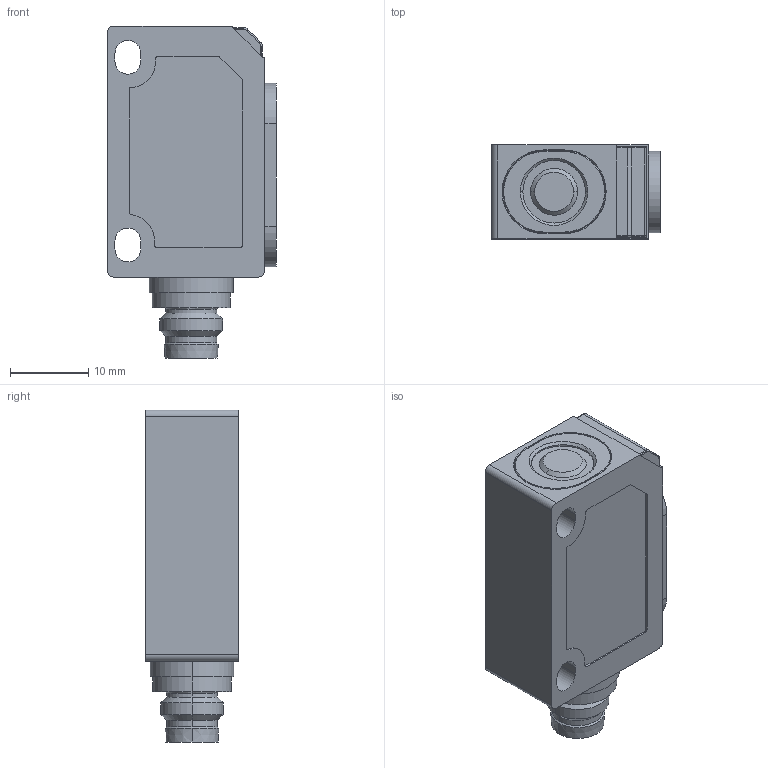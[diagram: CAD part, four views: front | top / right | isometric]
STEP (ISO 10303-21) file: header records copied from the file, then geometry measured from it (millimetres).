
FILE_DESCRIPTION (( 'STEP AP214' ), '1' );
FILE_NAME ('zws-15_CX_QS.STEP', '2025-04-25T10:16:48', ( '' ), ( '' ), 'SwSTEP 2.0', 'SolidWorks 2024', '' );
FILE_SCHEMA (( 'AUTOMOTIVE_DESIGN' ));
Length unit declared in the file: millimetre
Products named in the file (1): zws-15_CX_QS
Bounding box: 21.6 x 12 x 42.45 mm (x, y, z)
Volume: 8102.2 mm3; surface area: 3333.1 mm2
Topology: 1 solids, 1 shells, 136 faces, 333 edges, 206 vertices
Faces by surface type: cylinder 63, plane 43, cone 16, sphere 8, torus 4, bspline 2
Entity records: 5267 total; most frequent: DIRECTION 725, CARTESIAN_POINT 724, ORIENTED_EDGE 634, EDGE_CURVE 317, AXIS2_PLACEMENT_3D 281, VERTEX_POINT 198, VECTOR 163, LINE 163
